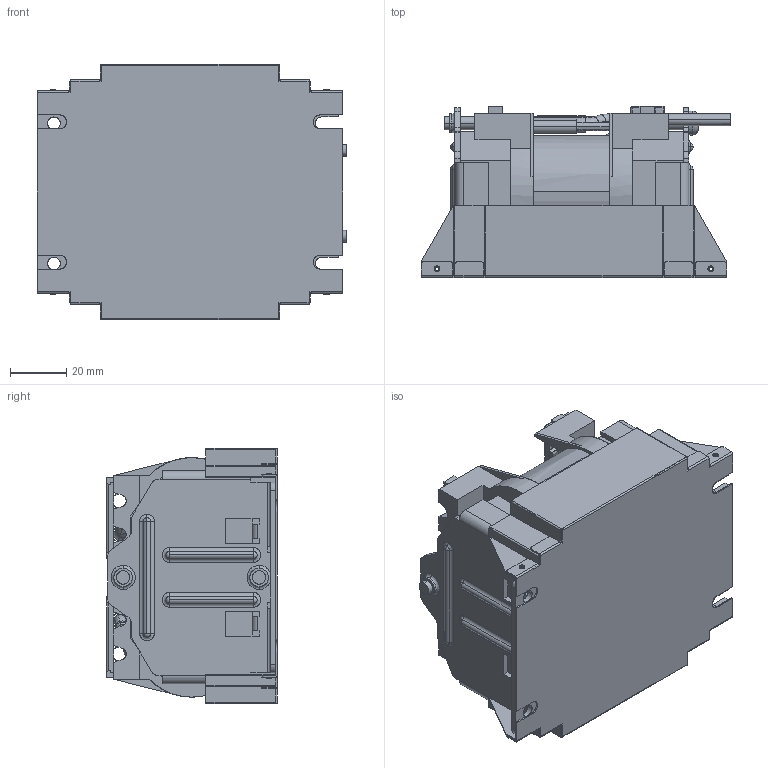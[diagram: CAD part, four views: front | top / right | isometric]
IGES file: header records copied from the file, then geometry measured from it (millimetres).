
Start section: SolidWorks IGES file using analytic representation for surfaces
Global section: file name: 34H\\10.106.230.1\R&D File\05_COMP\02_Mechanical\10_Others\PV_RT 81\网络用3D模型\半灌封模型\4KW_S_DCL\SP10221B-SM00SS20R(M-4KW_DCL-S).IGS; native system: SolidWorks 2009; preprocessor: SolidWorks 2009; author: Administrator; date: 120508.163949; units: millimetre
Bounding box: 110.5 x 60.9 x 91 mm (x, y, z)
Surface area: 136673 mm2 (no closed solid volume)
Topology: 0 solids, 0 shells, 1124 faces, 8989 edges, 8966 vertices
Faces by surface type: bspline 742, revolution 382
